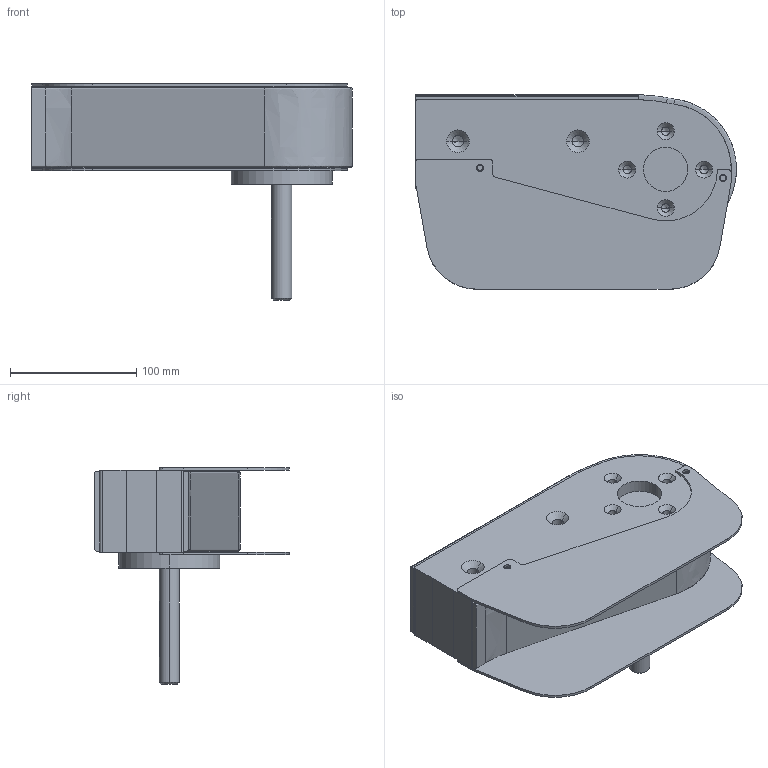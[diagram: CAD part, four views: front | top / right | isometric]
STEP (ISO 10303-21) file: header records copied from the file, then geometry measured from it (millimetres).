
FILE_DESCRIPTION (( 'STEP AP214' ), '1' );
FILE_NAME ('FSDD 250 0L.step', '2017-04-07T11:09:17', ( '' ), ( '' ), 'SwSTEP 2.0', 'SolidWorks 2016', '' );
FILE_SCHEMA (( 'AUTOMOTIVE_DESIGN' ));
Length unit declared in the file: millimetre
Products named in the file (1): FSDD 250 0L
Bounding box: 254 x 154.01 x 171.5 mm (x, y, z)
Volume: 1599674.9 mm3; surface area: 235070.3 mm2
Topology: 1 solids, 3 shells, 259 faces, 622 edges, 372 vertices
Faces by surface type: cylinder 105, plane 74, cone 66, bspline 14
Entity records: 10795 total; most frequent: CARTESIAN_POINT 3360, DIRECTION 1308, ORIENTED_EDGE 1188, EDGE_CURVE 594, AXIS2_PLACEMENT_3D 508, VERTEX_POINT 372, EDGE_LOOP 292, VECTOR 292
